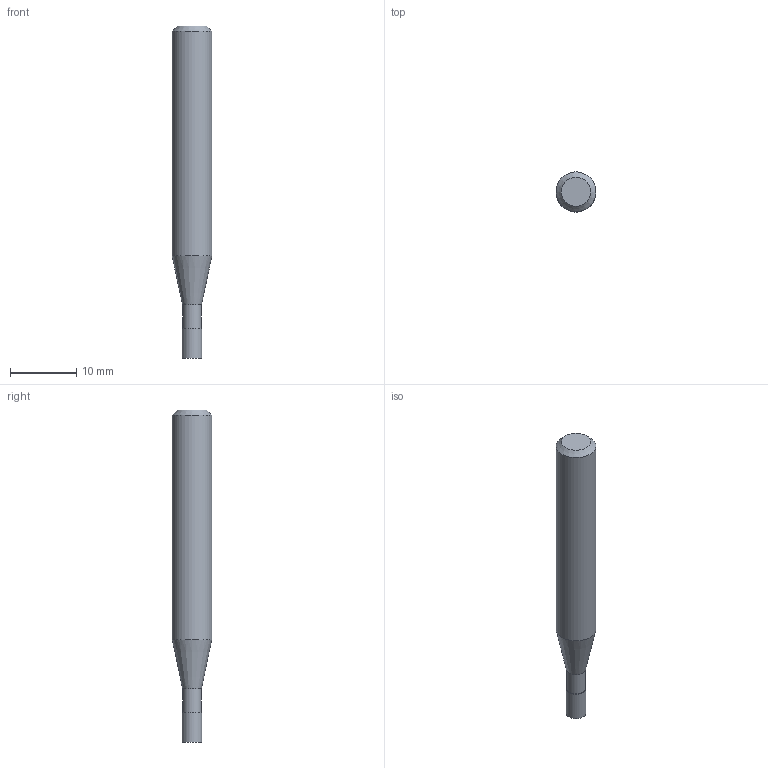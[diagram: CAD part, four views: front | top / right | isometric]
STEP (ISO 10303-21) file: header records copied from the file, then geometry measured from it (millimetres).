
FILE_DESCRIPTION((''),'2;1');
FILE_NAME('C:\Users\nsx150\AppData\Local\Temp\Mastercam 2021\17T8Q8S9EB\TEMP.step','2021-04-21T14:28:18',(''),(''),'STEP Write','Mastercam 2021 ... CNC Software, Inc.','');
FILE_SCHEMA(('AUTOMOTIVE_DESIGN'));
Length unit declared in the file: millimetre
Products named in the file (1): None
Bounding box: 6 x 6 x 50 mm (x, y, z)
Volume: 1145.4 mm3; surface area: 870.2 mm2
Topology: 2 solids, 2 shells, 9 faces, 12 edges, 7 vertices
Faces by surface type: plane 4, cylinder 3, cone 2
Full cylindrical faces by diameter (mm): 2.85 x1, 3 x1, 6 x1
Entity records: 211 total; most frequent: DIRECTION 36, CARTESIAN_POINT 25, AXIS2_PLACEMENT_3D 18, ORIENTED_EDGE 14, EDGE_LOOP 14, STYLED_ITEM 12, ADVANCED_FACE 9, FACE_BOUND 8
